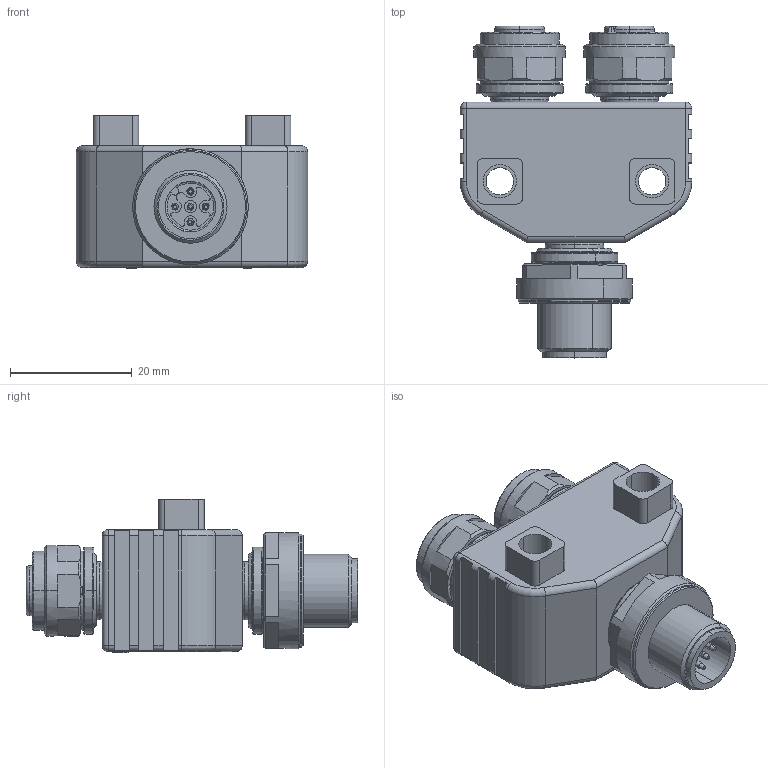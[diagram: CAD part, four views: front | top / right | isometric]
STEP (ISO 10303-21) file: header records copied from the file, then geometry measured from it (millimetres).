
FILE_DESCRIPTION (( 'STEP AP203' ), '1' );
FILE_NAME ('6930563 VB2-FSM5-2FKM4.4_S2087.STEP', '2016-11-21T07:01:08', ( 'User' ), ( '' ), 'SwSTEP 2.0', 'SolidWorks 2016', '' );
FILE_SCHEMA (( 'CONFIG_CONTROL_DESIGN' ));
Length unit declared in the file: millimetre
Products named in the file (1): 6930563 VB2-FSM5-2FKM4.4_S2087
Bounding box: 38 x 54.5 x 25.2 mm (x, y, z)
Volume: 20586.6 mm3; surface area: 14927.9 mm2
Topology: 27 solids, 27 shells, 2000 faces, 5064 edges, 3241 vertices
Faces by surface type: cylinder 1047, plane 647, cone 149, torus 120, bspline 33, sphere 4
Entity records: 68931 total; most frequent: CARTESIAN_POINT 18779, DIRECTION 11398, ORIENTED_EDGE 10100, EDGE_CURVE 5050, AXIS2_PLACEMENT_3D 4614, VERTEX_POINT 3241, CIRCLE 2646, EDGE_LOOP 2201
